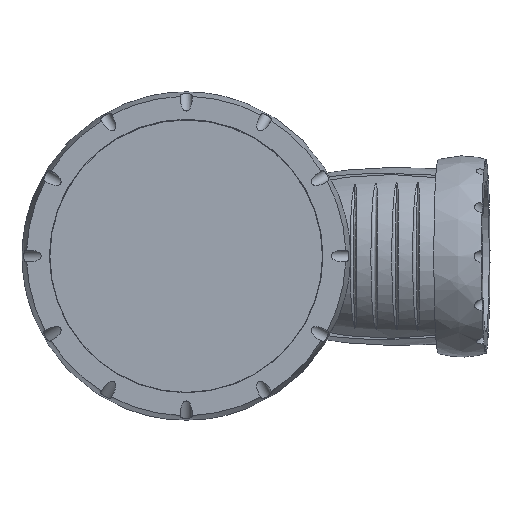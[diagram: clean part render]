
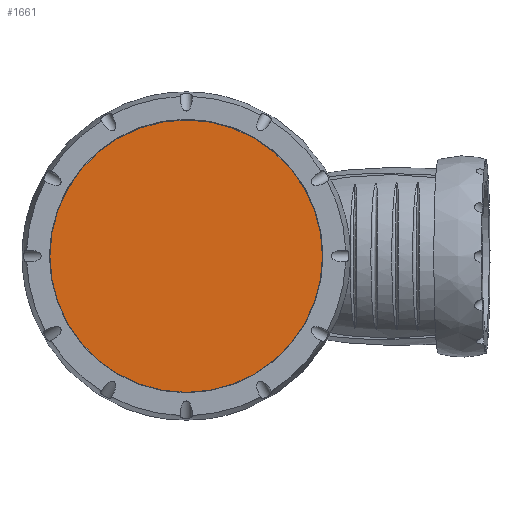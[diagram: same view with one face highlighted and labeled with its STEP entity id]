
A CAD part, top view. The second image highlights one B-rep face of the part: STEP entity #1661.
In plain terms, the highlighted planar face has unit normal (0, 0, 1).
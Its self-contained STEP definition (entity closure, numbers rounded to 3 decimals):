
#225=PLANE('',#1795);
#303=FACE_OUTER_BOUND('',#413,.T.);
#413=EDGE_LOOP('',(#1069));
#551=CIRCLE('',#1796,45.45);
#630=VERTEX_POINT('',#2433);
#810=EDGE_CURVE('',#630,#630,#551,.T.);
#1069=ORIENTED_EDGE('',*,*,#810,.T.);
#1661=ADVANCED_FACE('',(#303),#225,.T.);
#1795=AXIS2_PLACEMENT_3D('',#2432,#1998,#1999);
#1796=AXIS2_PLACEMENT_3D('',#2434,#2000,#2001);
#1998=DIRECTION('center_axis',(0.,0.,
1.));
#1999=DIRECTION('ref_axis',(0.,1.,0.));
#2000=DIRECTION('center_axis',(0.,0.,
1.));
#2001=DIRECTION('ref_axis',(0.,1.,0.));
#2432=CARTESIAN_POINT('Origin',(0.,0.,
123.5));
#2433=CARTESIAN_POINT('',(-45.45,0.,123.5));
#2434=CARTESIAN_POINT('Origin',(0.,0.,
123.5));
